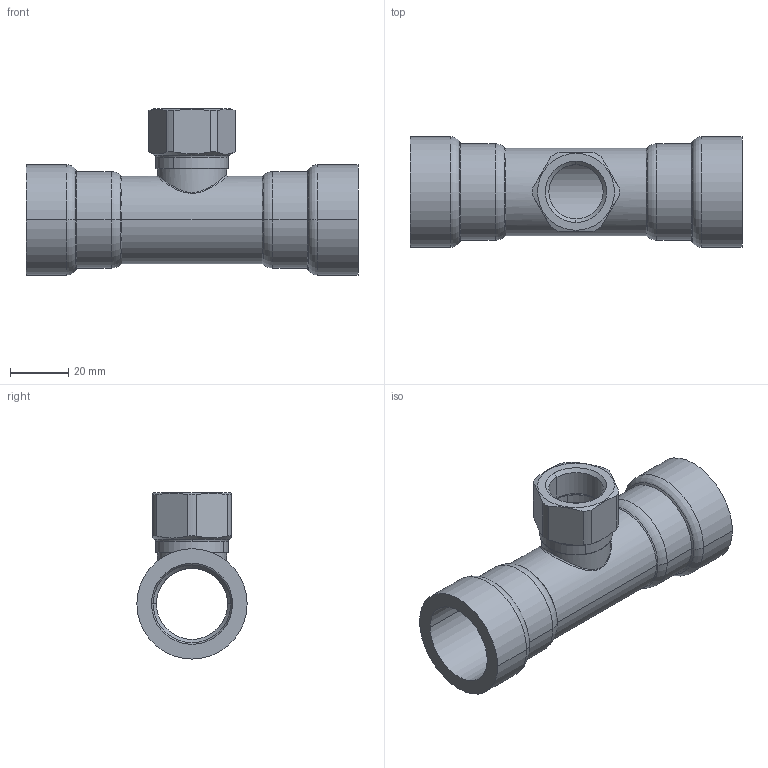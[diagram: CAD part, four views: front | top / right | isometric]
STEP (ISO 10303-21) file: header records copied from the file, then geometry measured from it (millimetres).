
FILE_DESCRIPTION(('Creo Elements/Direct Modeling STEP Export'),'2;1');
FILE_NAME('C9418_3-4-Rp1-2_3-4.stp','2020-07-15T16:26:35',(''),(''),'PTC Creo Elements/Direct Modeling STEP processor for AP214 (Solid Model)','PTC Creo Elements/Direct Modeling 19.0C 15-Aug-2015 (C) Parametric Technology GmbH','');
FILE_SCHEMA(('AUTOMOTIVE_DESIGN { 1 0 10303 214 1 1 1 1 }'));
Length unit declared in the file: millimetre
Products named in the file (2): C9418_3-4-Rp1-2_3-4
Assembly tree (1 placements, depth 2):
  C9418_3-4-Rp1-2_3-4
    C9418_3-4-Rp1-2_3-4
Bounding box: 114.03 x 37.9 x 57.05 mm (x, y, z)
Volume: 42982.6 mm3; surface area: 26231.7 mm2
Topology: 1 solids, 1 shells, 88 faces, 228 edges, 144 vertices
Faces by surface type: cylinder 32, cone 24, torus 18, plane 10, bspline 4
Entity records: 6929 total; most frequent: CARTESIAN_POINT 4896, ORIENTED_EDGE 456, DIRECTION 386, EDGE_CURVE 228, AXIS2_PLACEMENT_3D 162, VERTEX_POINT 144, EDGE_LOOP 94, FACE_OUTER_BOUND 88
